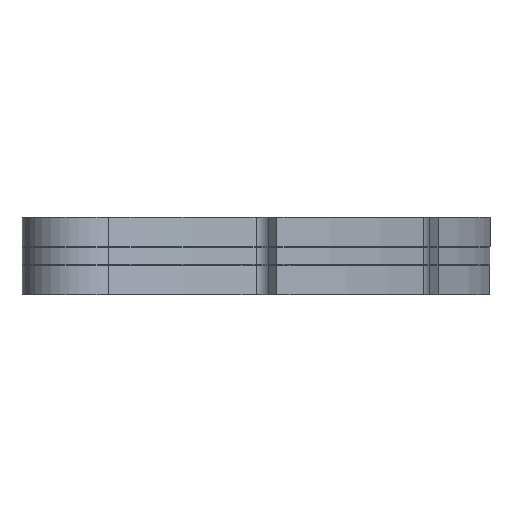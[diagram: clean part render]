
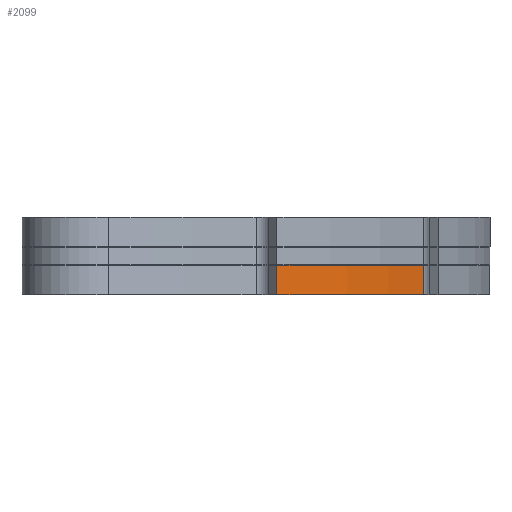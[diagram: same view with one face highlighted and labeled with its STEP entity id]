
A CAD part, front view. The second image highlights one B-rep face of the part: STEP entity #2099.
In plain terms, the highlighted free-form (B-spline) face has degree [3, 1] with [7, 2] control points.
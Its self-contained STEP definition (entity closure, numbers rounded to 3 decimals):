
#23=B_SPLINE_CURVE_WITH_KNOTS('',3,(#2951,#2952,#2953,#2954,#2955,#2956,
#2957),.UNSPECIFIED.,.F.,.F.,(4,3,4),(-31.838,-29.02,
-24.981),.UNSPECIFIED.);
#24=B_SPLINE_CURVE_WITH_KNOTS('',3,(#2959,#2960,#2961,#2962,#2963,#2964,
#2965),.UNSPECIFIED.,.F.,.F.,(4,3,4),(-31.838,-29.02,
-24.981),.UNSPECIFIED.);
#55=B_SPLINE_SURFACE_WITH_KNOTS('',3,1,((#2936,#2937),(#2938,#2939),(#2940,
#2941),(#2942,#2943),(#2944,#2945),(#2946,#2947),(#2948,#2949)),
 .UNSPECIFIED.,.F.,.F.,.F.,(4,3,4),(2,2),(-31.838,-29.02,
-24.981),(0.,1.),.UNSPECIFIED.);
#142=FACE_OUTER_BOUND('',#255,.T.);
#255=EDGE_LOOP('',(#1435,#1436,#1437,#1438));
#374=LINE('',#2935,#607);
#375=LINE('',#2966,#608);
#607=VECTOR('',#2393,10.);
#608=VECTOR('',#2394,10.);
#896=VERTEX_POINT('',#2931);
#897=VERTEX_POINT('',#2933);
#898=VERTEX_POINT('',#2950);
#899=VERTEX_POINT('',#2958);
#1112=EDGE_CURVE('',#896,#897,#374,.T.);
#1113=EDGE_CURVE('',#898,#896,#23,.T.);
#1114=EDGE_CURVE('',#899,#897,#24,.T.);
#1115=EDGE_CURVE('',#898,#899,#375,.T.);
#1435=ORIENTED_EDGE('',*,*,#1113,.T.);
#1436=ORIENTED_EDGE('',*,*,#1112,.T.);
#1437=ORIENTED_EDGE('',*,*,#1114,.F.);
#1438=ORIENTED_EDGE('',*,*,#1115,.F.);
#2099=ADVANCED_FACE('',(#142),#55,.T.);
#2393=DIRECTION('',(0.,0.,1.));
#2394=DIRECTION('',(0.,0.,1.));
#2931=CARTESIAN_POINT('',(183.479,-8.447,0.));
#2933=CARTESIAN_POINT('',(183.479,-8.447,10.));
#2935=CARTESIAN_POINT('',(183.479,-8.447,0.));
#2936=CARTESIAN_POINT('Ctrl Pts',(133.715,-61.849,0.));
#2937=CARTESIAN_POINT('Ctrl Pts',(133.715,-61.849,10.));
#2938=CARTESIAN_POINT('Ctrl Pts',(141.411,-55.613,0.));
#2939=CARTESIAN_POINT('Ctrl Pts',(141.411,-55.613,10.));
#2940=CARTESIAN_POINT('Ctrl Pts',(148.811,-48.977,0.));
#2941=CARTESIAN_POINT('Ctrl Pts',(148.811,-48.977,10.));
#2942=CARTESIAN_POINT('Ctrl Pts',(155.841,-41.933,0.));
#2943=CARTESIAN_POINT('Ctrl Pts',(155.841,-41.933,10.));
#2944=CARTESIAN_POINT('Ctrl Pts',(165.917,-31.837,0.));
#2945=CARTESIAN_POINT('Ctrl Pts',(165.917,-31.837,10.));
#2946=CARTESIAN_POINT('Ctrl Pts',(175.356,-20.782,0.));
#2947=CARTESIAN_POINT('Ctrl Pts',(175.356,-20.782,10.));
#2948=CARTESIAN_POINT('Ctrl Pts',(183.479,-8.447,0.));
#2949=CARTESIAN_POINT('Ctrl Pts',(183.479,-8.447,10.));
#2950=CARTESIAN_POINT('',(133.715,-61.849,0.));
#2951=CARTESIAN_POINT('Ctrl Pts',(133.715,-61.849,0.));
#2952=CARTESIAN_POINT('Ctrl Pts',(141.411,-55.613,0.));
#2953=CARTESIAN_POINT('Ctrl Pts',(148.811,-48.977,0.));
#2954=CARTESIAN_POINT('Ctrl Pts',(155.841,-41.933,0.));
#2955=CARTESIAN_POINT('Ctrl Pts',(165.917,-31.837,0.));
#2956=CARTESIAN_POINT('Ctrl Pts',(175.356,-20.782,0.));
#2957=CARTESIAN_POINT('Ctrl Pts',(183.479,-8.447,0.));
#2958=CARTESIAN_POINT('',(133.715,-61.849,10.));
#2959=CARTESIAN_POINT('Ctrl Pts',(133.715,-61.849,10.));
#2960=CARTESIAN_POINT('Ctrl Pts',(141.411,-55.613,10.));
#2961=CARTESIAN_POINT('Ctrl Pts',(148.811,-48.977,10.));
#2962=CARTESIAN_POINT('Ctrl Pts',(155.841,-41.933,10.));
#2963=CARTESIAN_POINT('Ctrl Pts',(165.917,-31.837,10.));
#2964=CARTESIAN_POINT('Ctrl Pts',(175.356,-20.782,10.));
#2965=CARTESIAN_POINT('Ctrl Pts',(183.479,-8.447,10.));
#2966=CARTESIAN_POINT('',(133.715,-61.849,0.));
